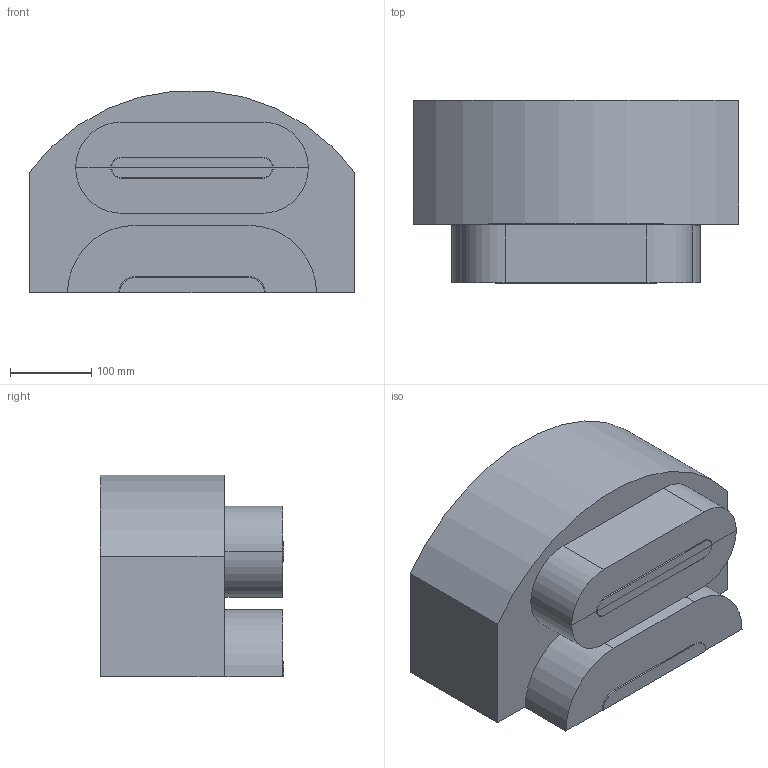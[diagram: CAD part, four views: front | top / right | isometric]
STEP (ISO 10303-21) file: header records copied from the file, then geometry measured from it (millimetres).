
FILE_DESCRIPTION(('STEP AP214'),'1');
FILE_NAME('TPS_SWLS_step.step','2021-08-11T18:56:15',(' '),(' '),'Spatial InterOp 3D',' ',' ');
FILE_SCHEMA(('AUTOMOTIVE_DESIGN { 1 0 10303 214 1 1 1 1 }'));
Length unit declared in the file: millimetre
Products named in the file (1): Pole
Bounding box: 400 x 225 x 248.11 mm (x, y, z)
Volume: 16946373.7 mm3; surface area: 685378.8 mm2
Topology: 7 solids, 7 shells, 54 faces, 120 edges, 80 vertices
Faces by surface type: plane 35, cylinder 19
Entity records: 1541 total; most frequent: DIRECTION 280, CARTESIAN_POINT 261, ORIENTED_EDGE 240, EDGE_CURVE 120, AXIS2_PLACEMENT_3D 99, LINE 82, VECTOR 82, VERTEX_POINT 80
